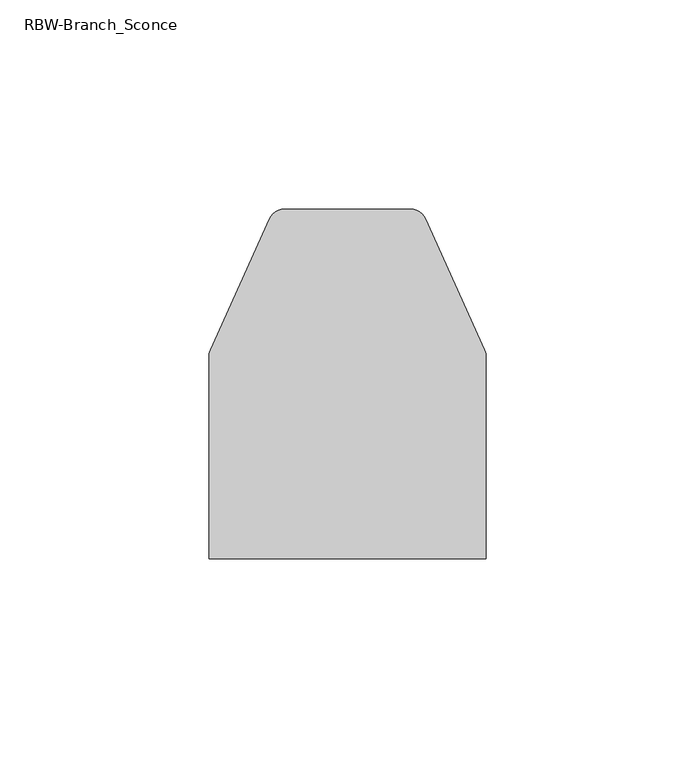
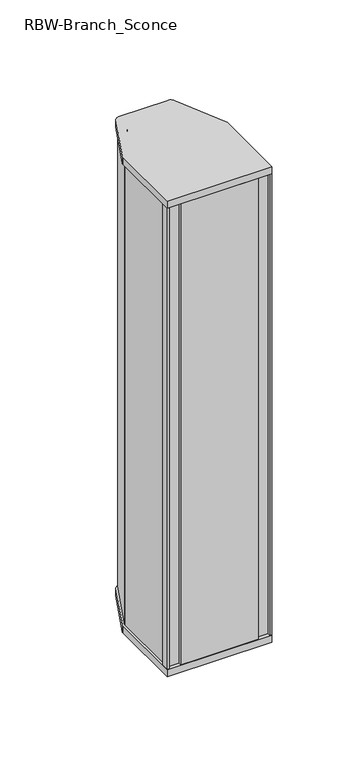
"""IFC4 building model written with IfcOpenShell, lengths in millimetres: light fixture geometry, RBW-Branch_Sconce : BRES-S."""

from ifc_helpers import new_model, si_unit, point, frame, frame_2d, origin, place, context, project, spatial, polyline, circle_curve, trimmed, segment, composite_curve, outline, extrude, source, transform, mapped, element, save
from ifc_brep_helpers import plane_surface, cylinder_surface, revolved_surface, advanced_brep


def rbw_branch_sconce_65352383(model_context):
    return source(origin(), model_context, "Body", "SolidModel", [
        extrude(outline(composite_curve([segment(trimmed(circle_curve(frame_2d((-29.1703125, 224.5714396)), 3.96875), [point((-33.1390625, 224.5714396))], [point((-32.7874435, 226.2046388))], False, "CARTESIAN"), True, "CONTINUOUS"), segment(polyline([(-32.7874435, 226.2046388), (-18.6829515, 257.442588)]), True, "CONTINUOUS"), segment(trimmed(circle_curve(frame_2d((-15.0658205, 255.8093887)), 3.96875), [point((-18.6829515, 257.442588))], [point((-15.0658205, 259.7781387))], False, "CARTESIAN"), True, "CONTINUOUS"), segment(polyline([(-15.0658205, 259.7781387), (15.0658205, 259.7781387)]), True, "CONTINUOUS"), segment(trimmed(circle_curve(frame_2d((15.0658205, 255.8093887)), 3.96875), [point((15.0658205, 259.7781387))], [point((18.6829515, 257.442588))], False, "CARTESIAN"), True, "CONTINUOUS"), segment(polyline([(18.6829515, 257.442588), (32.7874435, 226.2046388)]), True, "CONTINUOUS"), segment(trimmed(circle_curve(frame_2d((29.1703125, 224.5714396)), 3.96875), [point((32.7874435, 226.2046388))], [point((33.1390625, 224.5714396))], False, "CARTESIAN"), True, "CONTINUOUS"), segment(polyline([(33.1390625, 224.5714396), (33.1390625, 176.2125), (-33.1390625, 176.2125), (-33.1390625, 224.5714396)]), True, "CONTINUOUS")], self_intersect=False)), frame((0.0, 0.0, 2269.8273437), z_axis=(0.0, 0.0, 1.0), x_axis=(1.0, 0.0, 0.0)), (0.0, 0.0, 1.0), 4.7625),
        extrude(outline(composite_curve([segment(trimmed(circle_curve(frame_2d((-29.1703125, 224.5714396)), 3.96875), [point((-33.1390625, 224.5714396))], [point((-32.7874435, 226.2046388))], False, "CARTESIAN"), True, "CONTINUOUS"), segment(polyline([(-32.7874435, 226.2046388), (-18.6829515, 257.442588)]), True, "CONTINUOUS"), segment(trimmed(circle_curve(frame_2d((-15.0658205, 255.8093887)), 3.96875), [point((-18.6829515, 257.442588))], [point((-15.0658205, 259.7781387))], False, "CARTESIAN"), True, "CONTINUOUS"), segment(polyline([(-15.0658205, 259.7781387), (15.0658205, 259.7781387)]), True, "CONTINUOUS"), segment(trimmed(circle_curve(frame_2d((15.0658205, 255.8093887)), 3.96875), [point((15.0658205, 259.7781387))], [point((18.6829515, 257.442588))], False, "CARTESIAN"), True, "CONTINUOUS"), segment(polyline([(18.6829515, 257.442588), (32.7874435, 226.2046388)]), True, "CONTINUOUS"), segment(trimmed(circle_curve(frame_2d((29.1703125, 224.5714396)), 3.96875), [point((32.7874435, 226.2046388))], [point((33.1390625, 224.5714396))], False, "CARTESIAN"), True, "CONTINUOUS"), segment(polyline([(33.1390625, 224.5714396), (33.1390625, 176.2125), (-33.1390625, 176.2125), (-33.1390625, 224.5714396)]), True, "CONTINUOUS")], self_intersect=False)), frame((0.0, 0.0, 1955.8), z_axis=(0.0, 0.0, 1.0), x_axis=(1.0, 0.0, 0.0)), (0.0, 0.0, 1.0), 4.7625),
        extrude(outline(polyline([(24.6399969, 177.7596923), (24.6399969, 176.2125), (-24.6399969, 176.2125), (-24.6399969, 177.7596923), (24.6399969, 177.7596923)])), frame((0.0, 0.0, 1960.5625), z_axis=(0.0, 0.0, 1.0), x_axis=(1.0, 0.0, 0.0)), (0.0, 0.0, 1.0), 309.2648437),
        extrude(outline(composite_curve([segment(polyline([(-31.110477, 179.9808985), (-31.110477, 224.021969)]), True, "CONTINUOUS"), segment(trimmed(circle_curve(frame_2d((-27.5248794, 224.021969)), 3.5855977), [point((-31.110477, 224.021969))], [point((-30.7964256, 225.4894485))], False, "CARTESIAN"), True, "CONTINUOUS"), segment(polyline([(-30.7964256, 225.4894485), (-16.8462004, 256.5895809)]), True, "CONTINUOUS"), segment(trimmed(circle_curve(frame_2d((-15.0356307, 255.7774347)), 1.984375), [point((-16.8462004, 256.5895809))], [point((-15.0356307, 257.7618097))], False, "CARTESIAN"), True, "CONTINUOUS"), segment(polyline([(-15.0356307, 257.7618097), (15.0356307, 257.7618097)]), True, "CONTINUOUS"), segment(trimmed(circle_curve(frame_2d((15.0356307, 255.7774347)), 1.984375), [point((15.0356307, 257.7618097))], [point((16.8462004, 256.5895809))], False, "CARTESIAN"), True, "CONTINUOUS"), segment(polyline([(16.8462004, 256.5895809), (30.7964256, 225.4894485)]), True, "CONTINUOUS"), segment(trimmed(circle_curve(frame_2d((27.5248794, 224.021969)), 3.5855977), [point((30.7964256, 225.4894485))], [point((31.110477, 224.021969))], False, "CARTESIAN"), True, "CONTINUOUS"), segment(polyline([(31.110477, 224.021969), (31.110477, 179.9808985), (30.1182895, 179.9808985), (30.1182895, 224.021969)]), True, "CONTINUOUS"), segment(trimmed(circle_curve(frame_2d((27.3264419, 224.021969)), 2.7918477), [point((30.1182895, 224.021969))], [point((29.8737602, 225.16459))], True, "CARTESIAN"), True, "CONTINUOUS"), segment(polyline([(29.8737602, 225.16459), (15.923535, 256.2647224)]), True, "CONTINUOUS"), segment(trimmed(circle_curve(frame_2d((14.8371932, 255.7774347)), 1.190625), [point((15.923535, 256.2647224))], [point((14.8371932, 256.9680597))], True, "CARTESIAN"), True, "CONTINUOUS"), segment(polyline([(14.8371932, 256.9680597), (-14.8371932, 256.9680597)]), True, "CONTINUOUS"), segment(trimmed(circle_curve(frame_2d((-14.8371932, 255.7774347)), 1.190625), [point((-14.8371932, 256.9680597))], [point((-15.923535, 256.2647224))], True, "CARTESIAN"), True, "CONTINUOUS"), segment(polyline([(-15.923535, 256.2647224), (-29.8737602, 225.16459)]), True, "CONTINUOUS"), segment(trimmed(circle_curve(frame_2d((-27.3264419, 224.021969)), 2.7918477), [point((-29.8737602, 225.16459))], [point((-30.1182895, 224.021969))], True, "CARTESIAN"), True, "CONTINUOUS"), segment(polyline([(-30.1182895, 224.021969), (-30.1182895, 179.9808985), (-31.110477, 179.9808985)]), True, "CONTINUOUS")], self_intersect=False)), frame((0.0, 0.0, 1960.5625), z_axis=(0.0, 0.0, 1.0), x_axis=(1.0, 0.0, 0.0)), (0.0, 0.0, 1.0), 309.2648437),
        extrude(outline(polyline([(-33.1390625, 176.2125), (-33.1390625, 181.3017242), (-32.0194247, 181.3017242), (-32.0194247, 179.5714034), (-30.0957715, 179.5714034), (-30.0957715, 222.1084753), (30.0957715, 222.1084753), (30.0957715, 179.5714034), (32.0194247, 179.5714034), (32.0194247, 181.3017242), (33.1390625, 181.3017242), (33.1390625, 176.2125), (31.8158534, 176.2125), (31.8158534, 178.2482285), (17.3478991, 178.2482285), (17.3478991, 179.5714034), (28.7725647, 179.5714034), (28.7725647, 220.8148148), (-28.7725647, 220.8148148), (-28.7725647, 179.5714034), (-17.3478991, 179.5714034), (-17.3478991, 178.2482285), (-31.8158534, 178.2482285), (-31.8158534, 176.2125), (-33.1390625, 176.2125)])), frame((0.0, 0.0, 1960.5625), z_axis=(0.0, 0.0, 1.0), x_axis=(1.0, 0.0, 0.0)), (0.0, 0.0, 1.0), 309.2648437),
        advanced_brep(
        [(-27.2864128, 224.2551117, 2269.8273437), (-27.2864128, 222.1084753, 2269.8273437), (-25.6989128, 222.1084753, 2269.8273437), (-25.6989128, 224.0609321, 2269.8273437), (-13.4703808, 251.1441484, 2269.8273437), (-12.3155675, 251.8290085, 2269.8273437), (12.3155675, 251.8290085, 2269.8273437), (13.4153876, 251.1182122, 2269.8273437), (25.6989128, 223.8524826, 2269.8273437), (25.6989128, 222.1084753, 2269.8273437), (27.2864128, 222.1084753, 2269.8273437), (27.2864128, 224.194265, 2269.8273437), (14.862775, 251.7703059, 2269.8273437), (12.3155675, 253.4165085, 2269.8273437), (-12.3155675, 253.4165085, 2269.8273437), (-14.8618241, 251.7724141, 2269.8273437), (-27.2864128, 224.2551117, 1960.5625), (-14.8618241, 251.7724141, 1960.5625), (-12.3155675, 253.4165085, 1960.5625), (12.3155675, 253.4165085, 1960.5625), (14.862775, 251.7703059, 1960.5625), (27.2864128, 224.194265, 1960.5625), (27.2864128, 222.1084753, 1960.5625), (25.6989128, 222.1084753, 1960.5625), (25.6989128, 223.8524826, 1960.5625), (13.4153876, 251.1182122, 1960.5625), (12.3155675, 251.8290085, 1960.5625), (-12.3155675, 251.8290085, 1960.5625), (-13.4149733, 251.1191309, 1960.5625), (-25.6989128, 224.0609321, 1960.5625), (-25.6989128, 222.1084753, 1960.5625), (-27.2864128, 222.1084753, 1960.5625)],
        [
            (0, 1),
            (1, 2),
            (2, 3),
            (3, 4),
            (4, 5, circle_curve(frame((-12.3155675, 250.6227305, 2269.8273437), z_axis=(0.0, 0.0, -1.0), x_axis=(0.0, 1.0, 0.0)), 1.2062779)),
            (5, 6),
            (6, 7, circle_curve(frame((12.3155675, 250.6227305, 2269.8273437), z_axis=(0.0, 0.0, -1.0), x_axis=(0.0, 1.0, 0.0)), 1.2062779)),
            (7, 8),
            (8, 9),
            (9, 10),
            (10, 11),
            (11, 12),
            (12, 13, circle_curve(frame((12.3155675, 250.6227305, 2269.8273437), z_axis=(0.0, 0.0, 1.0), x_axis=(0.0, 1.0, 0.0)), 2.7937779)),
            (13, 14),
            (14, 15, circle_curve(frame((-12.3155675, 250.6227305, 2269.8273437), z_axis=(0.0, 0.0, 1.0), x_axis=(0.0, 1.0, 0.0)), 2.7937779)),
            (15, 0),
            (16, 17),
            (17, 18, circle_curve(frame((-12.3155675, 250.6227305, 1960.5625), z_axis=(0.0, 0.0, -1.0), x_axis=(0.0, 1.0, 0.0)), 2.7937779)),
            (18, 19),
            (19, 20, circle_curve(frame((12.3155675, 250.6227305, 1960.5625), z_axis=(0.0, 0.0, -1.0), x_axis=(0.0, 1.0, 0.0)), 2.7937779)),
            (20, 21),
            (21, 22),
            (22, 23),
            (23, 24),
            (24, 25),
            (25, 26, circle_curve(frame((12.3155675, 250.6227305, 1960.5625), z_axis=(0.0, 0.0, 1.0), x_axis=(0.0, 1.0, 0.0)), 1.2062779)),
            (26, 27),
            (27, 28, circle_curve(frame((-12.3155675, 250.6227305, 1960.5625), z_axis=(0.0, 0.0, 1.0), x_axis=(0.0, 1.0, 0.0)), 1.2062779)),
            (28, 29),
            (29, 30),
            (30, 31),
            (31, 16),
            (0, 16),
            (31, 1),
            (30, 2),
            (29, 3),
            (4, 28),
            (27, 5),
            (26, 6),
            (25, 7),
            (24, 8),
            (23, 9),
            (22, 10),
            (21, 11),
            (20, 12),
            (19, 13),
            (18, 14),
            (17, 15),
        ],
        [
            plane_surface(frame((-27.2864128, 222.1084753, 2269.8273437), z_axis=(0.0, 0.0, 1.0), x_axis=(0.0, -1.0, 0.0))),
            plane_surface(frame((-27.2864128, 222.1084753, 1960.5625), z_axis=(0.0, 0.0, -1.0), x_axis=(0.0, 1.0, 0.0))),
            plane_surface(frame((-27.2864128, 224.2551117, 2269.8273437), z_axis=(-1.0, 0.0, 0.0), x_axis=(0.0, 0.0, -1.0))),
            plane_surface(frame((-27.2864128, 222.1084753, 2269.8273437), z_axis=(0.0, -1.0, 0.0), x_axis=(0.0, 0.0, -1.0))),
            plane_surface(frame((-25.6989128, 222.1084753, 2269.8273437), z_axis=(1.0, 0.0, 0.0), x_axis=(0.0, 0.0, -1.0))),
            revolved_surface(polyline([(-12.3155675, 251.8290084, 1960.5625), (-12.3155675, 251.8290084, 2269.8273437)]), (-12.3155675, 250.6227305, 1960.5625), (0.0, 0.0, -1.0)),
            plane_surface(frame((-12.3155675, 251.8290085, 2269.8273437), z_axis=(0.0, -1.0, 0.0), x_axis=(0.0, 0.0, -1.0))),
            revolved_surface(polyline([(12.3155675, 251.8290084, 1960.5625), (12.3155675, 251.8290084, 2269.8273437)]), (12.3155675, 250.6227305, 1960.5625), (0.0, 0.0, -1.0)),
            plane_surface(frame((13.4153876, 251.1182122, 2269.8273437), z_axis=(-0.9117468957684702, -0.4107524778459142, 0.0), x_axis=(0.0, 0.0, -1.0))),
            plane_surface(frame((25.6989128, 223.8524826, 2269.8273437), z_axis=(-1.0, 0.0, 0.0), x_axis=(0.0, 0.0, -1.0))),
            plane_surface(frame((25.6989128, 222.1084753, 2269.8273437), z_axis=(0.0, -1.0, 0.0), x_axis=(0.0, 0.0, -1.0))),
            plane_surface(frame((27.2864128, 222.1084753, 2269.8273437), z_axis=(1.0, 0.0, 0.0), x_axis=(0.0, 0.0, -1.0))),
            plane_surface(frame((27.2864128, 224.194265, 2269.8273437), z_axis=(0.9117430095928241, 0.41076110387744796, 0.0), x_axis=(0.0, 0.0, -1.0))),
            cylinder_surface(frame((12.3155675, 250.6227305, 1960.5625), z_axis=(0.0, 0.0, 1.0), x_axis=(0.0, 1.0, 0.0)), 2.7937779),
            plane_surface(frame((12.3155675, 253.4165085, 2269.8273437), z_axis=(0.0, 1.0, 0.0), x_axis=(0.0, 0.0, -1.0))),
            cylinder_surface(frame((-12.3155675, 250.6227305, 1960.5625), z_axis=(0.0, 0.0, 1.0), x_axis=(0.0, 1.0, 0.0)), 2.7937779),
            plane_surface(frame((-25.6989128, 224.0609321, 2269.8273437), z_axis=(0.9114033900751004, -0.41151410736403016, 0.0), x_axis=(0.0, 0.0, -1.0))),
            plane_surface(frame((-14.8618241, 251.7724141, 2269.8273437), z_axis=(-0.911402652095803, 0.41151574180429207, 0.0), x_axis=(0.0, 0.0, -1.0))),
        ],
        [
            (0, [[1, 2, 3, 4, 5, 6, 7, 8, 9, 10, 11, 12, 13, 14, 15, 16]]),
            (1, [[17, 18, 19, 20, 21, 22, 23, 24, 25, 26, 27, 28, 29, 30, 31, 32]]),
            (2, [[-1, 33, -32, 34]]),
            (3, [[-2, -34, -31, 35]]),
            (4, [[-3, -35, -30, 36]]),
            (5, [[-5, 37, -28, 38]]),
            (6, [[-6, -38, -27, 39]]),
            (7, [[-7, -39, -26, 40]]),
            (8, [[-8, -40, -25, 41]]),
            (9, [[-9, -41, -24, 42]]),
            (10, [[-10, -42, -23, 43]]),
            (11, [[-11, -43, -22, 44]]),
            (12, [[-12, -44, -21, 45]]),
            (13, [[-13, -45, -20, 46]]),
            (14, [[-14, -46, -19, 47]]),
            (15, [[-15, -47, -18, 48]]),
            (16, [[-4, -36, -29, -37]]),
            (17, [[-16, -48, -17, -33]]),
        ],
    ),
        extrude(outline(composite_curve([segment(trimmed(circle_curve(frame_2d((-27.6240981, 224.2173149)), 4.3793477), [point((-32.0034458, 224.2173149))], [point((-31.6198722, 226.0096529))], False, "CARTESIAN"), True, "CONTINUOUS"), segment(polyline([(-31.6198722, 226.0096529), (-17.669647, 257.1097853)]), True, "CONTINUOUS"), segment(trimmed(circle_curve(frame_2d((-15.1348494, 255.9727806)), 2.778125), [point((-17.669647, 257.1097853))], [point((-15.1348494, 258.7509056))], False, "CARTESIAN"), True, "CONTINUOUS"), segment(polyline([(-15.1348494, 258.7509056), (15.1348494, 258.7509056)]), True, "CONTINUOUS"), segment(trimmed(circle_curve(frame_2d((15.1348494, 255.9727806)), 2.778125), [point((15.1348494, 258.7509056))], [point((17.669647, 257.1097853))], False, "CARTESIAN"), True, "CONTINUOUS"), segment(polyline([(17.669647, 257.1097853), (31.6198722, 226.0096529)]), True, "CONTINUOUS"), segment(trimmed(circle_curve(frame_2d((27.6240981, 224.2173149)), 4.3793477), [point((31.6198722, 226.0096529))], [point((32.0034458, 224.2173149))], False, "CARTESIAN"), True, "CONTINUOUS"), segment(polyline([(32.0034458, 224.2173149), (32.0034458, 179.9778069), (31.2096958, 179.9778069), (31.2096958, 224.2173149)]), True, "CONTINUOUS"), segment(trimmed(circle_curve(frame_2d((27.6240981, 224.2173149)), 3.5855977), [point((31.2096958, 224.2173149))], [point((30.8956443, 225.6847944))], True, "CARTESIAN"), True, "CONTINUOUS"), segment(polyline([(30.8956443, 225.6847944), (16.9454191, 256.7849268)]), True, "CONTINUOUS"), segment(trimmed(circle_curve(frame_2d((15.1348494, 255.9727806)), 1.984375), [point((16.9454191, 256.7849268))], [point((15.1348494, 257.9571556))], True, "CARTESIAN"), True, "CONTINUOUS"), segment(polyline([(15.1348494, 257.9571556), (-15.1348494, 257.9571556)]), True, "CONTINUOUS"), segment(trimmed(circle_curve(frame_2d((-15.1348494, 255.9727806)), 1.984375), [point((-15.1348494, 257.9571556))], [point((-16.9454191, 256.7849268))], True, "CARTESIAN"), True, "CONTINUOUS"), segment(polyline([(-16.9454191, 256.7849268), (-30.8956443, 225.6847944)]), True, "CONTINUOUS"), segment(trimmed(circle_curve(frame_2d((-27.6240981, 224.2173149)), 3.5855977), [point((-30.8956443, 225.6847944))], [point((-31.2096958, 224.2173149))], True, "CARTESIAN"), True, "CONTINUOUS"), segment(polyline([(-31.2096958, 224.2173149), (-31.2096958, 179.9778069), (-32.0034458, 179.9778069), (-32.0034458, 224.2173149)]), True, "CONTINUOUS")], self_intersect=False)), frame((0.0, 0.0, 1960.5625), z_axis=(0.0, 0.0, 1.0), x_axis=(1.0, 0.0, 0.0)), (0.0, 0.0, 1.0), 309.2648437),
    ])


if __name__ == "__main__":
    model = new_model("IFC4")
    model_context = context("Model", 3, world=origin())
    ifc_project = project(units=[si_unit("LENGTHUNIT", "METRE", prefix="MILLI")], contexts=[model_context])
    site = spatial("IfcSite", under=ifc_project)
    building = spatial("IfcBuilding", under=site)
    placement = place(None, origin())
    rbw_branch_sconce_shape = rbw_branch_sconce_65352383(model_context)
    element("IfcLightFixture", 1, ObjectType="RBW-Branch_Sconce : BRES-S", at=placement, inside=building, context=model_context, shape_type="MappedRepresentation", body=[
        mapped(rbw_branch_sconce_shape, transform((0.0, 0.0, 0.0), x_axis=(1.0, 0.0, 0.0), y_axis=(0.0, 1.0, 0.0), z_axis=(0.0, 0.0, 1.0))),
    ])
    save(model, "model.ifc")
